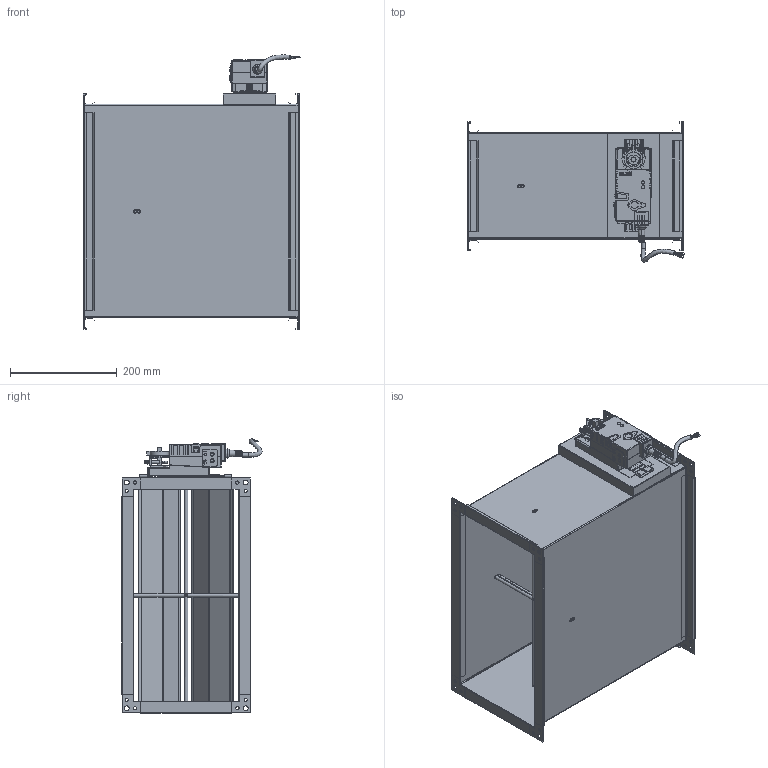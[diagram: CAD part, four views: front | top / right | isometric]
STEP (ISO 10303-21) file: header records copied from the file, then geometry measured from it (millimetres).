
FILE_DESCRIPTION (( 'STEP AP214' ), '1' );
FILE_NAME ('VAV-S400200.STEP', '2025-05-07T13:39:56', ( '' ), ( '' ), 'SwSTEP 2.0', 'SolidWorks 2025', '' );
FILE_SCHEMA (( 'AUTOMOTIVE_DESIGN' ));
Length unit declared in the file: millimetre
Products named in the file (1): VAV-S400200
Bounding box: 407.1 x 262.75 x 513.69 mm (x, y, z)
Surface area: 1718722 mm2 (no closed solid volume)
Topology: 0 solids, 58 shells, 2082 faces, 5343 edges, 3393 vertices
Faces by surface type: plane 1531, cylinder 498, bspline 24, sphere 18, cone 10, torus 1
Full cylindrical faces by diameter (mm): 1 x4, 4 x8, 5.876 x4, 6 x5, 6.102 x6, 8 x1, 9 x4, 11 x1, 20 x1, 21 x2
Entity records: 90975 total; most frequent: CARTESIAN_POINT 41607, ORIENTED_EDGE 10467, DIRECTION 6689, EDGE_CURVE 5257, VERTEX_POINT 3365, B_SPLINE_CURVE_WITH_KNOTS 3162, AXIS2_PLACEMENT_3D 2567, EDGE_LOOP 2285
